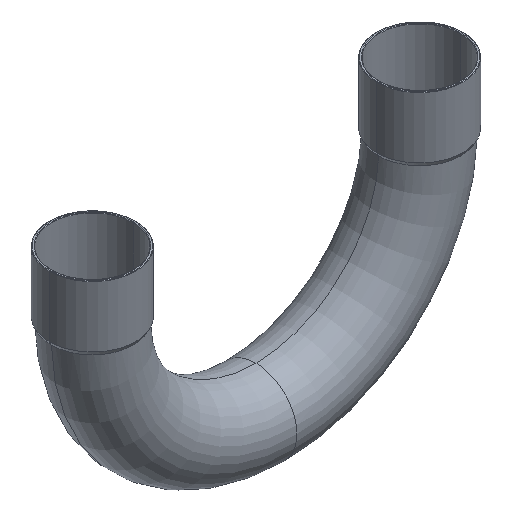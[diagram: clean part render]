
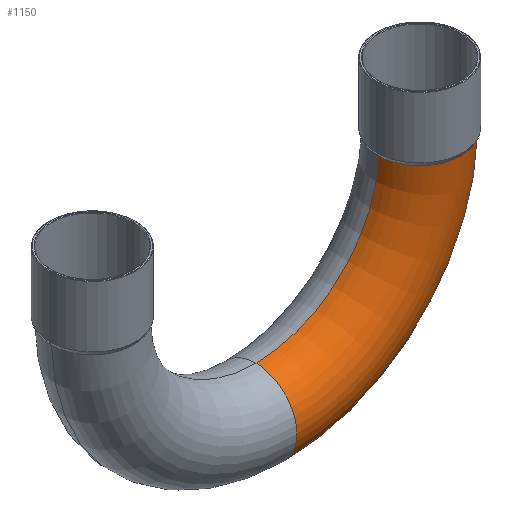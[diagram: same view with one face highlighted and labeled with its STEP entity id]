
A CAD part, isometric view. The second image highlights one B-rep face of the part: STEP entity #1150.
In plain terms, the highlighted toroidal (fillet/blend) face has major radius 70 mm and minor radius 17.5 mm.
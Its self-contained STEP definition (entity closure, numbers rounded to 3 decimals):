
#51=CARTESIAN_POINT('',(22.035,0.,-87.5));
#52=VERTEX_POINT('',#51);
#85=CARTESIAN_POINT('',(22.035,0.,-52.5));
#86=VERTEX_POINT('',#85);
#109=CARTESIAN_POINT('',(109.511,0.,-2.041));
#110=VERTEX_POINT('',#109);
#111=CARTESIAN_POINT('',(22.035,0.,0.0));
#112=DIRECTION('',(0.0,-1.0,0.0));
#113=DIRECTION('',(0.0,0.0,-1.0));
#114=AXIS2_PLACEMENT_3D('',#111,#112,#113);
#115=CIRCLE('',#114,87.5);
#116=EDGE_CURVE('',#52,#110,#115,.T.);
#119=CARTESIAN_POINT('',(74.499,0.,-1.938));
#120=VERTEX_POINT('',#119);
#121=CARTESIAN_POINT('',(22.035,0.,0.0));
#122=DIRECTION('',(0.0,1.0,0.0));
#123=DIRECTION('',(0.0,0.0,-1.0));
#124=AXIS2_PLACEMENT_3D('',#121,#122,#123);
#125=CIRCLE('',#124,52.5);
#126=EDGE_CURVE('',#120,#86,#125,.T.);
#1111=CARTESIAN_POINT('',(22.035,0.,0.0));
#1112=DIRECTION('',(0.0,-1.0,0.0));
#1113=DIRECTION('',(0.0,0.0,-1.0));
#1114=AXIS2_PLACEMENT_3D('',#1111,#1112,#1113);
#1115=TOROIDAL_SURFACE('',#1114,70.0,17.5);
#1116=ORIENTED_EDGE('',*,*,#116,.T.);
#1117=CARTESIAN_POINT('',(109.511,0.,-2.041));
#1118=CARTESIAN_POINT('',(109.511,-1.29,-2.041));
#1119=CARTESIAN_POINT('',(109.369,-2.576,-2.041));
#1120=CARTESIAN_POINT('',(108.803,-5.093,-2.04));
#1121=CARTESIAN_POINT('',(108.382,-6.317,-2.039));
#1122=CARTESIAN_POINT('',(106.856,-9.543,-2.036));
#1123=CARTESIAN_POINT('',(105.488,-11.393,-2.033));
#1124=CARTESIAN_POINT('',(102.12,-14.465,-2.026));
#1125=CARTESIAN_POINT('',(100.151,-15.657,-2.021));
#1126=CARTESIAN_POINT('',(95.868,-17.221,-2.011));
#1127=CARTESIAN_POINT('',(93.594,-17.576,-2.005));
#1128=CARTESIAN_POINT('',(89.037,-17.396,-1.991));
#1129=CARTESIAN_POINT('',(86.798,-16.862,-1.984));
#1130=CARTESIAN_POINT('',(82.651,-14.966,-1.971));
#1131=CARTESIAN_POINT('',(80.783,-13.622,-1.964));
#1132=CARTESIAN_POINT('',(77.667,-10.295,-1.952));
#1133=CARTESIAN_POINT('',(76.45,-8.344,-1.946));
#1134=CARTESIAN_POINT('',(74.886,-4.228,-1.94));
#1135=CARTESIAN_POINT('',(74.499,-2.122,-1.938));
#1136=CARTESIAN_POINT('',(74.499,0.,-1.938));
#1137=B_SPLINE_CURVE_WITH_KNOTS('',3,(#1117,#1118,#1119,#1120,#1121,#1122,#1123,#1124,#1125,#1126,#1127,#1128,#1129,#1130,#1131,#1132,#1133,#1134,#1135,#1136),.UNSPECIFIED.,.F.,.U.,(4,2,2,2,2,2,2,2,2,4),(-11.03,-10.643,-10.256,-9.573,-8.889,-8.205,-7.521,-6.837,-6.153,-5.516),.UNSPECIFIED.);
#1138=EDGE_CURVE('',#110,#120,#1137,.T.);
#1139=ORIENTED_EDGE('',*,*,#1138,.T.);
#1140=ORIENTED_EDGE('',*,*,#126,.T.);
#1141=CARTESIAN_POINT('',(22.035,0.,-70.0));
#1142=DIRECTION('',(-1.0,0.0,0.0));
#1143=DIRECTION('',(0.0,0.0,-1.0));
#1144=AXIS2_PLACEMENT_3D('',#1141,#1142,#1143);
#1145=CIRCLE('',#1144,17.5);
#1146=EDGE_CURVE('',#52,#86,#1145,.T.);
#1147=ORIENTED_EDGE('',*,*,#1146,.F.);
#1148=EDGE_LOOP('',(#1116,#1139,#1140,#1147));
#1149=FACE_OUTER_BOUND('',#1148,.T.);
#1150=ADVANCED_FACE('',(#1149),#1115,.T.);
